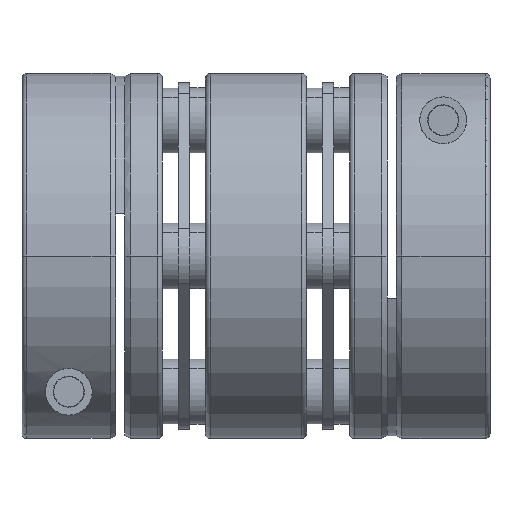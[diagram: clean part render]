
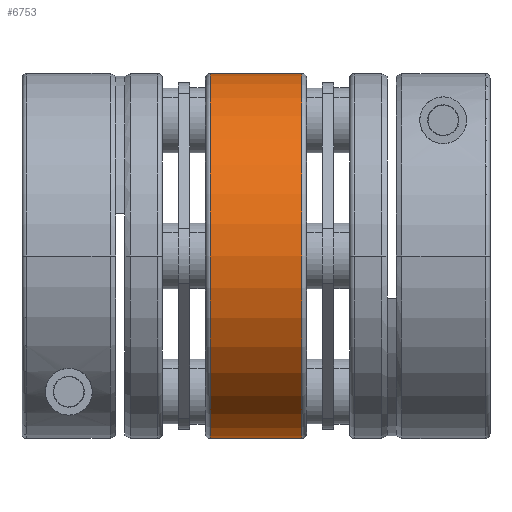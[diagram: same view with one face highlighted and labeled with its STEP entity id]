
A CAD part, left-side view. The second image highlights one B-rep face of the part: STEP entity #6753.
In plain terms, the highlighted cylindrical face has radius 19.5 mm (diameter 39 mm), a partial arc.
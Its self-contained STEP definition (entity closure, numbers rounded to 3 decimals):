
#191 = AXIS2_PLACEMENT_3D ( 'NONE', #6317, #850, #6899 ) ;
#321 = LINE ( 'NONE', #4214, #5605 ) ;
#399 = FACE_OUTER_BOUND ( 'NONE', #2818, .T. ) ;
#569 = AXIS2_PLACEMENT_3D ( 'NONE', #3714, #3270, #5932 ) ;
#850 = DIRECTION ( 'NONE',  ( 0., -1., 0. ) ) ;
#1306 = DIRECTION ( 'NONE',  ( 0., -1., 0. ) ) ;
#1484 = LINE ( 'NONE', #6792, #2106 ) ;
#1507 = DIRECTION ( 'NONE',  ( 0., 1., 0. ) ) ;
#1533 = CARTESIAN_POINT ( 'NONE',  ( 0., 4.9, -19.5 ) ) ;
#1708 = CIRCLE ( 'NONE', #191, 19.5 ) ;
#2019 = VERTEX_POINT ( 'NONE', #3841 ) ;
#2106 = VECTOR ( 'NONE', #3855, 1000. ) ;
#2818 = EDGE_LOOP ( 'NONE', ( #4668, #5151, #5488, #3108 ) ) ;
#2888 = EDGE_CURVE ( 'NONE', #5452, #2019, #5675, .T. ) ;
#3108 = ORIENTED_EDGE ( 'NONE', *, *, #2888, .T. ) ;
#3270 = DIRECTION ( 'NONE',  ( 0., -1., 0. ) ) ;
#3404 = VERTEX_POINT ( 'NONE', #7104 ) ;
#3698 = EDGE_CURVE ( 'NONE', #3404, #2019, #321, .T. ) ;
#3714 = CARTESIAN_POINT ( 'NONE',  ( 0., 5.4, 0. ) ) ;
#3841 = CARTESIAN_POINT ( 'NONE',  ( 0., -4.9, 19.5 ) ) ;
#3855 = DIRECTION ( 'NONE',  ( 0., -1., 0. ) ) ;
#4047 = AXIS2_PLACEMENT_3D ( 'NONE', #7000, #1507, #5661 ) ;
#4048 = EDGE_CURVE ( 'NONE', #4208, #5452, #1484, .T. ) ;
#4208 = VERTEX_POINT ( 'NONE', #1533 ) ;
#4214 = CARTESIAN_POINT ( 'NONE',  ( 0., 5.4, 19.5 ) ) ;
#4668 = ORIENTED_EDGE ( 'NONE', *, *, #3698, .F. ) ;
#4951 = CARTESIAN_POINT ( 'NONE',  ( 0., -4.9, -19.5 ) ) ;
#5151 = ORIENTED_EDGE ( 'NONE', *, *, #5677, .T. ) ;
#5452 = VERTEX_POINT ( 'NONE', #4951 ) ;
#5488 = ORIENTED_EDGE ( 'NONE', *, *, #4048, .T. ) ;
#5498 = CYLINDRICAL_SURFACE ( 'NONE', #569, 19.5 ) ;
#5605 = VECTOR ( 'NONE', #1306, 1000. ) ;
#5661 = DIRECTION ( 'NONE',  ( 0., 0., 1. ) ) ;
#5675 = CIRCLE ( 'NONE', #4047, 19.5 ) ;
#5677 = EDGE_CURVE ( 'NONE', #3404, #4208, #1708, .T. ) ;
#5932 = DIRECTION ( 'NONE',  ( 0., 0., -1. ) ) ;
#6317 = CARTESIAN_POINT ( 'NONE',  ( 0., 4.9, 0. ) ) ;
#6753 = ADVANCED_FACE ( 'NONE', ( #399 ), #5498, .T. ) ;
#6792 = CARTESIAN_POINT ( 'NONE',  ( 0., 5.4, -19.5 ) ) ;
#6899 = DIRECTION ( 'NONE',  ( 0., 0., 1. ) ) ;
#7000 = CARTESIAN_POINT ( 'NONE',  ( 0., -4.9, 0. ) ) ;
#7104 = CARTESIAN_POINT ( 'NONE',  ( 0., 4.9, 19.5 ) ) ;
